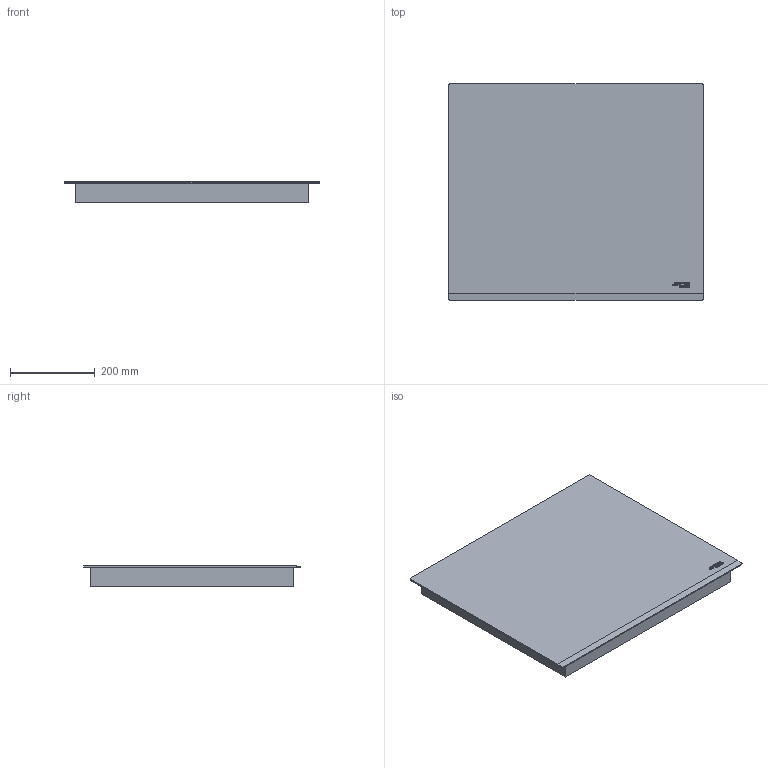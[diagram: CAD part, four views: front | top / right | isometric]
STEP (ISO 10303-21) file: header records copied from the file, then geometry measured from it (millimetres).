
FILE_DESCRIPTION(('CATIA V5 STEP'),'2;1');
FILE_NAME('Q:\Work\LeyhBjo\Picture Models\180206_Eftimie\949594452\949594452_SI2M7643B.stp','2018-03-16T07:57:39+00:00',('none'),('Electrolux'),'CATIA Version 5-6 Release 2014 SP5','CATIA V5 STEP AP203','none');
FILE_SCHEMA(('CONFIG_CONTROL_DESIGN'));
Length unit declared in the file: millimetre
Products named in the file (2): M0224578; 561253600_MM
Assembly tree (3 placements, depth 3):
  M0224578
    561253600_MM
      #65
    #9111
Bounding box: 600 x 510 x 49.6 mm (x, y, z)
Volume: 13095321.6 mm3; surface area: 1242637.8 mm2
Topology: 2 solids, 2 shells, 284 faces, 779 edges, 518 vertices
Faces by surface type: extrusion 151, plane 129, cylinder 4
Entity records: 9594 total; most frequent: CARTESIAN_POINT 3133, ORIENTED_EDGE 1550, DIRECTION 782, EDGE_CURVE 775, VECTOR 606, VERTEX_POINT 516, B_SPLINE_CURVE_WITH_KNOTS 465, LINE 455
